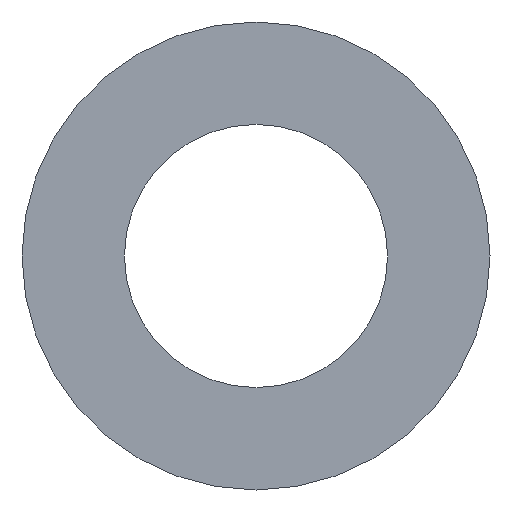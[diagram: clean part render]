
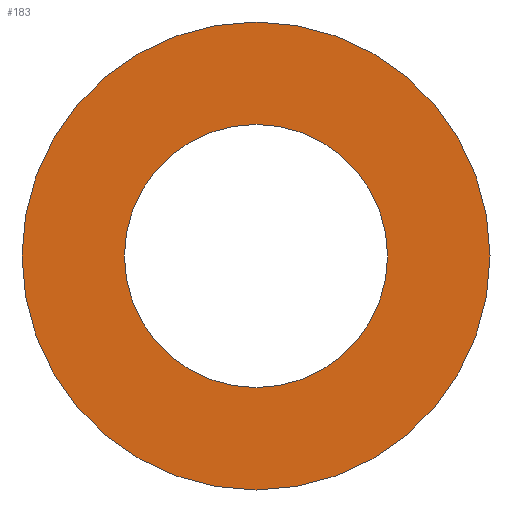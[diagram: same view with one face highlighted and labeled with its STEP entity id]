
A CAD part, left-side view. The second image highlights one B-rep face of the part: STEP entity #183.
In plain terms, the highlighted planar face has unit normal (-1, 0, 0).
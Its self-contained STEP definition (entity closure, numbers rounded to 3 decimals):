
#22 = VERTEX_POINT('',#23);
#23 = CARTESIAN_POINT('',(0.,8.,0.));
#32 = CYLINDRICAL_SURFACE('',#33,8.);
#33 = AXIS2_PLACEMENT_3D('',#34,#35,#36);
#34 = CARTESIAN_POINT('',(0.,0.,0.));
#35 = DIRECTION('',(-1.,-0.,-0.));
#36 = DIRECTION('',(0.,1.,0.));
#79 = EDGE_CURVE('',#22,#22,#80,.T.);
#80 = SURFACE_CURVE('',#81,(#86,#93),.PCURVE_S1.);
#81 = CIRCLE('',#82,8.);
#82 = AXIS2_PLACEMENT_3D('',#83,#84,#85);
#83 = CARTESIAN_POINT('',(0.,0.,0.));
#84 = DIRECTION('',(1.,0.,0.));
#85 = DIRECTION('',(0.,1.,0.));
#86 = PCURVE('',#32,#87);
#87 = DEFINITIONAL_REPRESENTATION('',(#88),#92);
#88 = LINE('',#89,#90);
#89 = CARTESIAN_POINT('',(-0.,0.));
#90 = VECTOR('',#91,1.);
#91 = DIRECTION('',(-1.,0.));
#92 = ( GEOMETRIC_REPRESENTATION_CONTEXT(2) 
PARAMETRIC_REPRESENTATION_CONTEXT() REPRESENTATION_CONTEXT('2D SPACE',''
  ) );
#93 = PCURVE('',#94,#99);
#94 = PLANE('',#95);
#95 = AXIS2_PLACEMENT_3D('',#96,#97,#98);
#96 = CARTESIAN_POINT('',(0.,0.,0.));
#97 = DIRECTION('',(1.,0.,0.));
#98 = DIRECTION('',(-0.,0.,1.));
#99 = DEFINITIONAL_REPRESENTATION('',(#100),#104);
#100 = CIRCLE('',#101,8.);
#101 = AXIS2_PLACEMENT_2D('',#102,#103);
#102 = CARTESIAN_POINT('',(0.,0.));
#103 = DIRECTION('',(0.,-1.));
#104 = ( GEOMETRIC_REPRESENTATION_CONTEXT(2) 
PARAMETRIC_REPRESENTATION_CONTEXT() REPRESENTATION_CONTEXT('2D SPACE',''
  ) );
#110 = VERTEX_POINT('',#111);
#111 = CARTESIAN_POINT('',(0.,4.5,0.));
#120 = CYLINDRICAL_SURFACE('',#121,4.5);
#121 = AXIS2_PLACEMENT_3D('',#122,#123,#124);
#122 = CARTESIAN_POINT('',(0.,0.,0.));
#123 = DIRECTION('',(-1.,-0.,-0.));
#124 = DIRECTION('',(0.,1.,0.));
#162 = EDGE_CURVE('',#110,#110,#163,.T.);
#163 = SURFACE_CURVE('',#164,(#169,#176),.PCURVE_S1.);
#164 = CIRCLE('',#165,4.5);
#165 = AXIS2_PLACEMENT_3D('',#166,#167,#168);
#166 = CARTESIAN_POINT('',(0.,0.,0.));
#167 = DIRECTION('',(1.,0.,0.));
#168 = DIRECTION('',(0.,1.,0.));
#169 = PCURVE('',#120,#170);
#170 = DEFINITIONAL_REPRESENTATION('',(#171),#175);
#171 = LINE('',#172,#173);
#172 = CARTESIAN_POINT('',(-0.,0.));
#173 = VECTOR('',#174,1.);
#174 = DIRECTION('',(-1.,0.));
#175 = ( GEOMETRIC_REPRESENTATION_CONTEXT(2) 
PARAMETRIC_REPRESENTATION_CONTEXT() REPRESENTATION_CONTEXT('2D SPACE',''
  ) );
#176 = PCURVE('',#94,#177);
#177 = DEFINITIONAL_REPRESENTATION('',(#178),#182);
#178 = CIRCLE('',#179,4.5);
#179 = AXIS2_PLACEMENT_2D('',#180,#181);
#180 = CARTESIAN_POINT('',(0.,0.));
#181 = DIRECTION('',(0.,-1.));
#182 = ( GEOMETRIC_REPRESENTATION_CONTEXT(2) 
PARAMETRIC_REPRESENTATION_CONTEXT() REPRESENTATION_CONTEXT('2D SPACE',''
  ) );
#183 = ADVANCED_FACE('',(#184,#187),#94,.F.);
#184 = FACE_BOUND('',#185,.F.);
#185 = EDGE_LOOP('',(#186));
#186 = ORIENTED_EDGE('',*,*,#79,.T.);
#187 = FACE_BOUND('',#188,.F.);
#188 = EDGE_LOOP('',(#189));
#189 = ORIENTED_EDGE('',*,*,#162,.F.);
